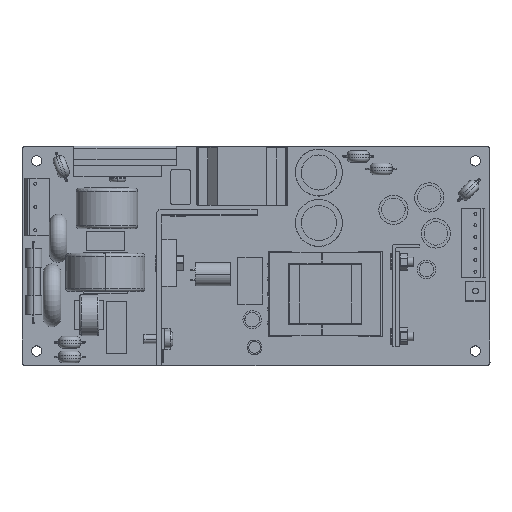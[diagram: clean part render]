
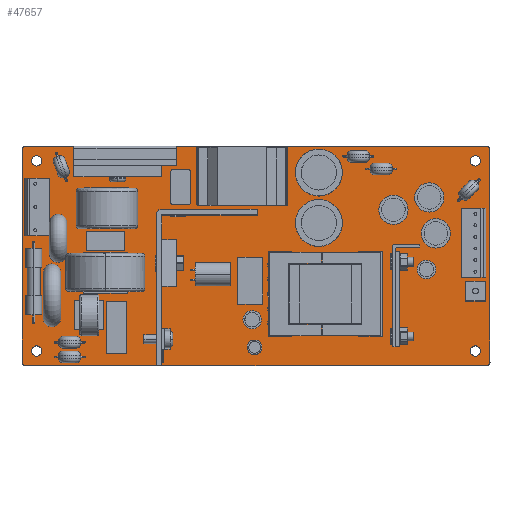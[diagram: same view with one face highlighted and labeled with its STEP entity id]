
A CAD part, top view. The second image highlights one B-rep face of the part: STEP entity #47657.
In plain terms, the highlighted planar face has unit normal (0, 0, 1).
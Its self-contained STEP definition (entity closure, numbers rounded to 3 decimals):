
#47076=CARTESIAN_POINT('',(-62.,16.5,
4.));
#47077=DIRECTION('',(0.,0.,-1.));
#47078=DIRECTION('',(-1.,0.,0.));
#47079=AXIS2_PLACEMENT_3D('',#47076,#47077,#47078);
#47084=DIRECTION('',(1.,0.,0.));
#47085=VECTOR('',#47084,157.5);
#47086=CARTESIAN_POINT('',(-62.,17.75,
4.));
#47087=LINE('',#47086,#47085);
#47091=CARTESIAN_POINT('',(95.5,16.5,4.));
#47092=DIRECTION('',(0.,0.,-1.));
#47093=DIRECTION('',(0.,1.,0.));
#47094=AXIS2_PLACEMENT_3D('',#47091,#47092,#47093);
#47099=DIRECTION('',(0.,-1.,0.));
#47100=VECTOR('',#47099,72.5);
#47101=CARTESIAN_POINT('',(96.75,16.5,4.));
#47102=LINE('',#47101,#47100);
#47106=CARTESIAN_POINT('',(95.5,-56.,
4.));
#47107=DIRECTION('',(0.,0.,-1.));
#47108=DIRECTION('',(1.,0.,0.));
#47109=AXIS2_PLACEMENT_3D('',#47106,#47107,#47108);
#47114=DIRECTION('',(-1.,0.,0.));
#47115=VECTOR('',#47114,157.5);
#47116=CARTESIAN_POINT('',(95.5,-57.25,
4.));
#47117=LINE('',#47116,#47115);
#47121=CARTESIAN_POINT('',(-62.,-56.,
4.));
#47122=DIRECTION('',(0.,0.,-1.));
#47123=DIRECTION('',(0.,-1.,0.));
#47124=AXIS2_PLACEMENT_3D('',#47121,#47122,#47123);
#47129=DIRECTION('',(0.,1.,0.));
#47130=VECTOR('',#47129,72.5);
#47131=CARTESIAN_POINT('',(-63.25,-56.,
4.));
#47132=LINE('',#47131,#47130);
#47136=CARTESIAN_POINT('',(-58.25,12.75,
4.));
#47137=DIRECTION('',(0.,0.,1.));
#47138=DIRECTION('',(-1.,0.,0.));
#47139=AXIS2_PLACEMENT_3D('',#47136,#47137,#47138);
#47144=CARTESIAN_POINT('',(-58.25,12.75,
4.));
#47145=DIRECTION('',(0.,0.,1.));
#47146=DIRECTION('',(1.,0.,0.));
#47147=AXIS2_PLACEMENT_3D('',#47144,#47145,#47146);
#47152=CARTESIAN_POINT('',(-58.25,-52.25,
4.));
#47153=DIRECTION('',(0.,0.,1.));
#47154=DIRECTION('',(-1.,0.,0.));
#47155=AXIS2_PLACEMENT_3D('',#47152,#47153,#47154);
#47160=CARTESIAN_POINT('',(-58.25,-52.25,
4.));
#47161=DIRECTION('',(0.,0.,1.));
#47162=DIRECTION('',(1.,0.,0.));
#47163=AXIS2_PLACEMENT_3D('',#47160,#47161,#47162);
#47168=CARTESIAN_POINT('',(91.75,-52.25,
4.));
#47169=DIRECTION('',(0.,0.,1.));
#47170=DIRECTION('',(-1.,0.,0.));
#47171=AXIS2_PLACEMENT_3D('',#47168,#47169,#47170);
#47176=CARTESIAN_POINT('',(91.75,-52.25,
4.));
#47177=DIRECTION('',(0.,0.,1.));
#47178=DIRECTION('',(1.,0.,0.));
#47179=AXIS2_PLACEMENT_3D('',#47176,#47177,#47178);
#47184=CARTESIAN_POINT('',(91.75,12.75,4.));
#47185=DIRECTION('',(0.,0.,1.));
#47186=DIRECTION('',(-1.,0.,0.));
#47187=AXIS2_PLACEMENT_3D('',#47184,#47185,#47186);
#47192=CARTESIAN_POINT('',(91.75,12.75,4.));
#47193=DIRECTION('',(0.,0.,1.));
#47194=DIRECTION('',(1.,0.,0.));
#47195=AXIS2_PLACEMENT_3D('',#47192,#47193,#47194);
#47436=DIRECTION('',(0.,1.,0.));
#47437=VECTOR('',#47436,32.5);
#47438=CARTESIAN_POINT('',(64.325,-50.65,
4.));
#47439=LINE('',#47438,#47437);
#47450=DIRECTION('',(1.,0.,0.));
#47451=VECTOR('',#47450,1.6);
#47452=CARTESIAN_POINT('',(64.325,-18.15,
4.));
#47453=LINE('',#47452,#47451);
#47464=DIRECTION('',(0.,-1.,0.));
#47465=VECTOR('',#47464,32.5);
#47466=CARTESIAN_POINT('',(65.925,-18.15,
4.));
#47467=LINE('',#47466,#47465);
#47478=DIRECTION('',(-1.,0.,0.));
#47479=VECTOR('',#47478,1.6);
#47480=CARTESIAN_POINT('',(65.925,-50.65,
4.));
#47481=LINE('',#47480,#47479);
#47520=CARTESIAN_POINT('',(-63.25,16.5,
4.));
#47521=CARTESIAN_POINT('',(-62.,17.75,
4.));
#47522=VERTEX_POINT('',#47520);
#47523=VERTEX_POINT('',#47521);
#47524=CARTESIAN_POINT('',(95.5,17.75,4.));
#47525=VERTEX_POINT('',#47524);
#47526=CARTESIAN_POINT('',(96.75,16.5,4.));
#47527=VERTEX_POINT('',#47526);
#47528=CARTESIAN_POINT('',(96.75,-56.,
4.));
#47529=VERTEX_POINT('',#47528);
#47530=CARTESIAN_POINT('',(95.5,-57.25,
4.));
#47531=VERTEX_POINT('',#47530);
#47532=CARTESIAN_POINT('',(-62.,-57.25,
4.));
#47533=VERTEX_POINT('',#47532);
#47534=CARTESIAN_POINT('',(-63.25,-56.,
4.));
#47535=VERTEX_POINT('',#47534);
#47536=CARTESIAN_POINT('',(-60.,12.75,
4.));
#47537=CARTESIAN_POINT('',(-56.5,12.75,
4.));
#47538=VERTEX_POINT('',#47536);
#47539=VERTEX_POINT('',#47537);
#47540=CARTESIAN_POINT('',(-60.,-52.25,
4.));
#47541=CARTESIAN_POINT('',(-56.5,-52.25,
4.));
#47542=VERTEX_POINT('',#47540);
#47543=VERTEX_POINT('',#47541);
#47544=CARTESIAN_POINT('',(90.,-52.25,
4.));
#47545=CARTESIAN_POINT('',(93.5,-52.25,
4.));
#47546=VERTEX_POINT('',#47544);
#47547=VERTEX_POINT('',#47545);
#47548=CARTESIAN_POINT('',(90.,12.75,4.));
#47549=CARTESIAN_POINT('',(93.5,12.75,4.));
#47550=VERTEX_POINT('',#47548);
#47551=VERTEX_POINT('',#47549);
#47552=CARTESIAN_POINT('',(64.325,-50.65,
4.));
#47553=CARTESIAN_POINT('',(64.325,-18.15,
4.));
#47554=VERTEX_POINT('',#47552);
#47555=VERTEX_POINT('',#47553);
#47556=CARTESIAN_POINT('',(65.925,-50.65,
4.));
#47557=VERTEX_POINT('',#47556);
#47558=CARTESIAN_POINT('',(65.925,-18.15,
4.));
#47559=VERTEX_POINT('',#47558);
#47600=CARTESIAN_POINT('',(0.,0.,4.));
#47601=DIRECTION('',(0.,0.,-1.));
#47602=DIRECTION('',(-1.,0.,0.));
#47603=AXIS2_PLACEMENT_3D('',#47600,#47601,#47602);
#47604=PLANE('',#47603);
#47606=ORIENTED_EDGE('',*,*,#47605,.T.);
#47608=ORIENTED_EDGE('',*,*,#47607,.T.);
#47610=ORIENTED_EDGE('',*,*,#47609,.T.);
#47612=ORIENTED_EDGE('',*,*,#47611,.T.);
#47614=ORIENTED_EDGE('',*,*,#47613,.T.);
#47616=ORIENTED_EDGE('',*,*,#47615,.T.);
#47618=ORIENTED_EDGE('',*,*,#47617,.T.);
#47620=ORIENTED_EDGE('',*,*,#47619,.T.);
#47621=EDGE_LOOP('',(#47606,#47608,#47610,#47612,#47614,#47616,#47618,#47620));
#47622=FACE_OUTER_BOUND('',#47621,.F.);
#47624=ORIENTED_EDGE('',*,*,#47623,.T.);
#47626=ORIENTED_EDGE('',*,*,#47625,.T.);
#47627=EDGE_LOOP('',(#47624,#47626));
#47628=FACE_BOUND('',#47627,.F.);
#47630=ORIENTED_EDGE('',*,*,#47629,.T.);
#47632=ORIENTED_EDGE('',*,*,#47631,.T.);
#47633=EDGE_LOOP('',(#47630,#47632));
#47634=FACE_BOUND('',#47633,.F.);
#47636=ORIENTED_EDGE('',*,*,#47635,.T.);
#47638=ORIENTED_EDGE('',*,*,#47637,.T.);
#47639=EDGE_LOOP('',(#47636,#47638));
#47640=FACE_BOUND('',#47639,.F.);
#47642=ORIENTED_EDGE('',*,*,#47641,.T.);
#47644=ORIENTED_EDGE('',*,*,#47643,.T.);
#47645=EDGE_LOOP('',(#47642,#47644));
#47646=FACE_BOUND('',#47645,.F.);
#47648=ORIENTED_EDGE('',*,*,#47647,.F.);
#47650=ORIENTED_EDGE('',*,*,#47649,.F.);
#47652=ORIENTED_EDGE('',*,*,#47651,.F.);
#47654=ORIENTED_EDGE('',*,*,#47653,.F.);
#47655=EDGE_LOOP('',(#47648,#47650,#47652,#47654));
#47656=FACE_BOUND('',#47655,.F.);
#47080=CIRCLE('',#47079,1.25);
#47095=CIRCLE('',#47094,1.25);
#47110=CIRCLE('',#47109,1.25);
#47125=CIRCLE('',#47124,1.25);
#47140=CIRCLE('',#47139,1.75);
#47148=CIRCLE('',#47147,1.75);
#47156=CIRCLE('',#47155,1.75);
#47164=CIRCLE('',#47163,1.75);
#47172=CIRCLE('',#47171,1.75);
#47180=CIRCLE('',#47179,1.75);
#47188=CIRCLE('',#47187,1.75);
#47196=CIRCLE('',#47195,1.75);
#47605=EDGE_CURVE('',#47522,#47523,#47080,.T.);
#47607=EDGE_CURVE('',#47523,#47525,#47087,.T.);
#47609=EDGE_CURVE('',#47525,#47527,#47095,.T.);
#47611=EDGE_CURVE('',#47527,#47529,#47102,.T.);
#47613=EDGE_CURVE('',#47529,#47531,#47110,.T.);
#47615=EDGE_CURVE('',#47531,#47533,#47117,.T.);
#47617=EDGE_CURVE('',#47533,#47535,#47125,.T.);
#47619=EDGE_CURVE('',#47535,#47522,#47132,.T.);
#47623=EDGE_CURVE('',#47538,#47539,#47140,.T.);
#47625=EDGE_CURVE('',#47539,#47538,#47148,.T.);
#47629=EDGE_CURVE('',#47542,#47543,#47156,.T.);
#47631=EDGE_CURVE('',#47543,#47542,#47164,.T.);
#47635=EDGE_CURVE('',#47546,#47547,#47172,.T.);
#47637=EDGE_CURVE('',#47547,#47546,#47180,.T.);
#47641=EDGE_CURVE('',#47550,#47551,#47188,.T.);
#47643=EDGE_CURVE('',#47551,#47550,#47196,.T.);
#47647=EDGE_CURVE('',#47554,#47555,#47439,.T.);
#47649=EDGE_CURVE('',#47557,#47554,#47481,.T.);
#47651=EDGE_CURVE('',#47559,#47557,#47467,.T.);
#47653=EDGE_CURVE('',#47555,#47559,#47453,.T.);
#47657=ADVANCED_FACE('',(#47622,#47628,#47634,#47640,#47646,#47656),#47604,.F.);
